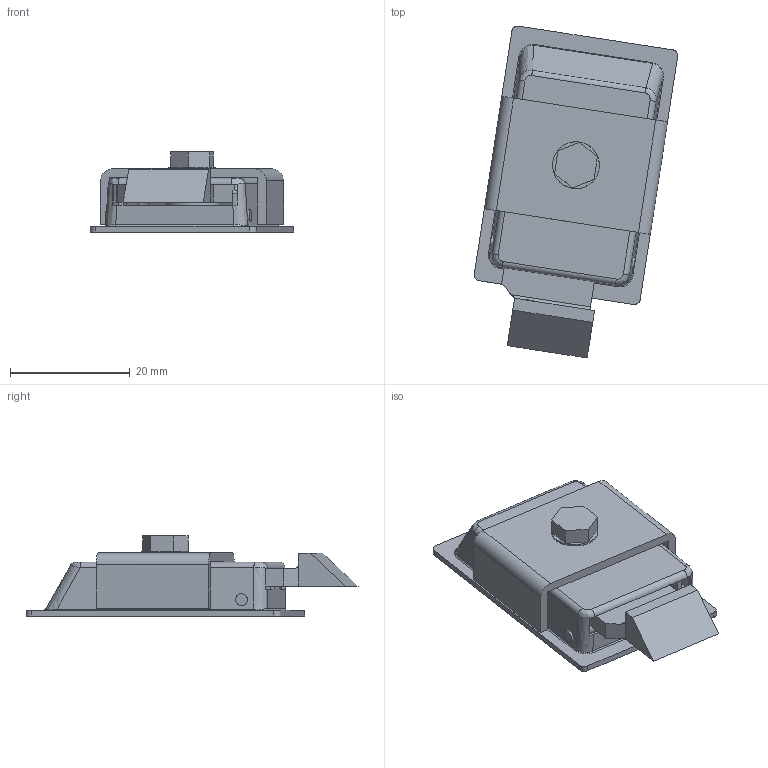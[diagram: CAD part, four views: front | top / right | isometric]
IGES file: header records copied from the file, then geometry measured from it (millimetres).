
Global section: file name: DR_LT-106; native system: Autodesk Inventor 2015; preprocessor: unknown; author: Administrator; date: 20220303.160000; units: millimetre
Bounding box: 33.95 x 55.4 x 13.4 mm (x, y, z)
Volume: 5080.6 mm3; surface area: 9722.4 mm2
Topology: 8 solids, 8 shells, 174 faces, 417 edges, 264 vertices
Faces by surface type: bspline 174
